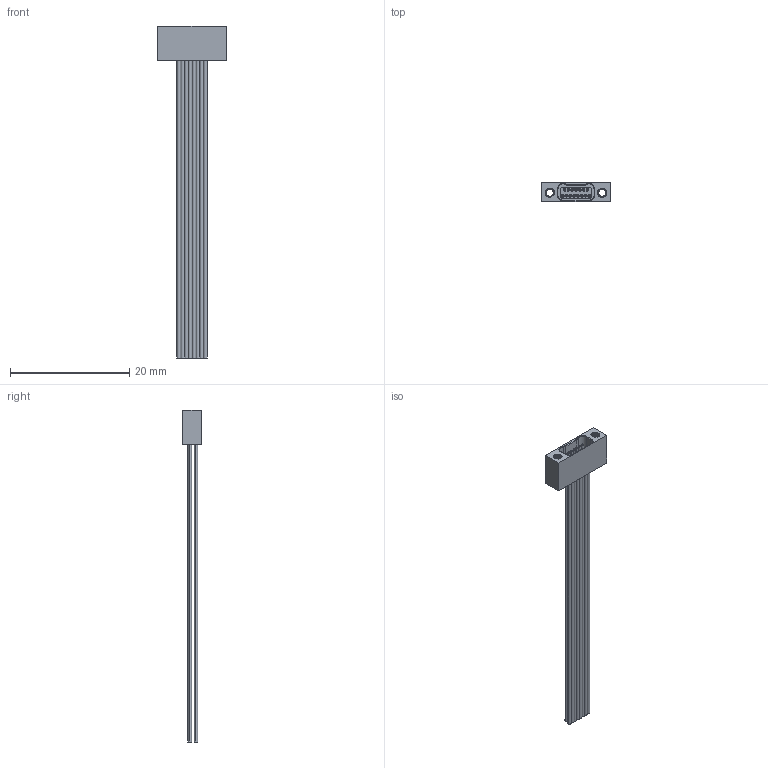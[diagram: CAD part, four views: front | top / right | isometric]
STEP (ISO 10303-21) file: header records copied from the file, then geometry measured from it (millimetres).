
FILE_DESCRIPTION (( 'STEP AP214' ), '1' );
FILE_NAME ('A29000-015 REV G.STEP', '2021-02-26T16:17:54', ( '' ), ( '' ), 'SwSTEP 2.0', 'SolidWorks 2019', '' );
FILE_SCHEMA (( 'AUTOMOTIVE_DESIGN' ));
Length unit declared in the file: inch
Products named in the file (1): A29000-015 REV G
Bounding box: 11.43 x 3.19 x 55.66 mm (x, y, z)
Volume: 370.3 mm3; surface area: 1945 mm2
Topology: 1 solids, 16 shells, 567 faces, 1323 edges, 848 vertices
Faces by surface type: cylinder 224, plane 215, torus 60, bspline 54, cone 14
Entity records: 28623 total; most frequent: CARTESIAN_POINT 8339, DIRECTION 2665, ORIENTED_EDGE 2646, EDGE_CURVE 1323, AXIS2_PLACEMENT_3D 1016, VERTEX_POINT 848, EDGE_LOOP 661, VECTOR 633
